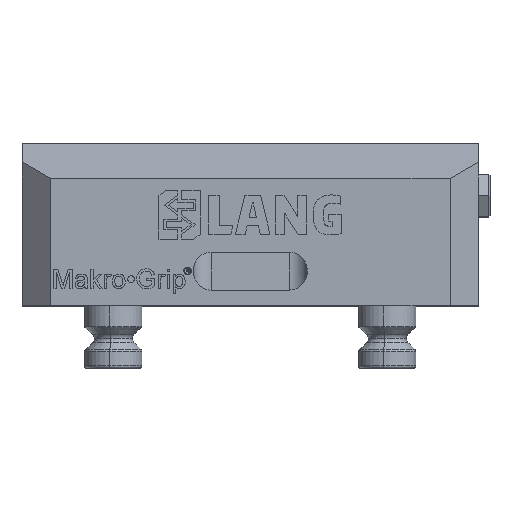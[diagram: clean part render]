
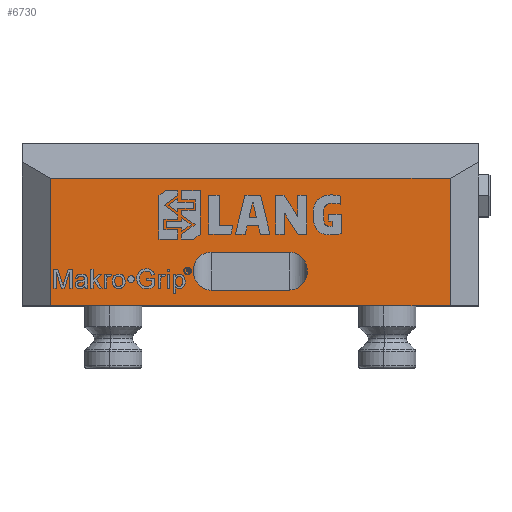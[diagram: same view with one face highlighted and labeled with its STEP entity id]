
A CAD part, top view. The second image highlights one B-rep face of the part: STEP entity #6730.
In plain terms, the highlighted planar face has unit normal (0, 0, 1).
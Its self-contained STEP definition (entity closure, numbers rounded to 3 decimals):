
#515 = CARTESIAN_POINT ( 'NONE',  ( 80., 44.587, 62.5 ) ) ;
#1158 = VECTOR ( 'NONE', #5932, 1000. ) ;
#1750 = CARTESIAN_POINT ( 'NONE',  ( 70., 57., 62.5 ) ) ;
#1830 = EDGE_LOOP ( 'NONE', ( #9539, #28933, #4221, #41804 ) ) ;
#2243 = CARTESIAN_POINT ( 'NONE',  ( -26.25, 18.743, 62.5 ) ) ;
#3030 = CARTESIAN_POINT ( 'NONE',  ( -13.75, 5.441, 62.5 ) ) ;
#4142 = ORIENTED_EDGE ( 'NONE', *, *, #6112, .T. ) ;
#4221 = ORIENTED_EDGE ( 'NONE', *, *, #26999, .T. ) ;
#5561 = DIRECTION ( 'NONE',  ( 0., -1., 0. ) ) ;
#5932 = DIRECTION ( 'NONE',  ( 1., 0., 0. ) ) ;
#6112 = EDGE_CURVE ( 'NONE', #12596, #37936, #12516, .T. ) ;
#6707 = VERTEX_POINT ( 'NONE', #3030 ) ;
#6730 = ADVANCED_FACE ( 'NONE', ( #11009, #6807 ), #24328, .F. ) ;
#6807 = FACE_OUTER_BOUND ( 'NONE', #1830, .T. ) ;
#6921 = ORIENTED_EDGE ( 'NONE', *, *, #12520, .F. ) ;
#7123 = LINE ( 'NONE', #515, #43682 ) ;
#8177 = EDGE_LOOP ( 'NONE', ( #6921, #4142, #12315, #34502 ) ) ;
#9539 = ORIENTED_EDGE ( 'NONE', *, *, #18550, .T. ) ;
#10629 = CARTESIAN_POINT ( 'NONE',  ( 80., 0., 62.5 ) ) ;
#11009 = FACE_BOUND ( 'NONE', #8177, .T. ) ;
#11668 = CARTESIAN_POINT ( 'NONE',  ( 70., 0., 62.5 ) ) ;
#12315 = ORIENTED_EDGE ( 'NONE', *, *, #33166, .F. ) ;
#12516 = LINE ( 'NONE', #16482, #1158 ) ;
#12520 = EDGE_CURVE ( 'NONE', #12596, #6707, #23766, .T. ) ;
#12596 = VERTEX_POINT ( 'NONE', #18114 ) ;
#13206 = AXIS2_PLACEMENT_3D ( 'NONE', #38745, #14055, #21273 ) ;
#14055 = DIRECTION ( 'NONE',  ( 0., 0., -1. ) ) ;
#14139 = CARTESIAN_POINT ( 'NONE',  ( 13.75, 5.441, 62.5 ) ) ;
#14345 = LINE ( 'NONE', #10629, #32834 ) ;
#15180 = EDGE_CURVE ( 'NONE', #32067, #20582, #14345, .T. ) ;
#15787 = VERTEX_POINT ( 'NONE', #20443 ) ;
#15964 = CARTESIAN_POINT ( 'NONE',  ( 13.75, 18.743, 62.5 ) ) ;
#16062 = DIRECTION ( 'NONE',  ( 0., 1., 0. ) ) ;
#16482 = CARTESIAN_POINT ( 'NONE',  ( 80., 18.743, 62.5 ) ) ;
#16546 = CARTESIAN_POINT ( 'NONE',  ( -13.75, 5.441, 62.5 ) ) ;
#18114 = CARTESIAN_POINT ( 'NONE',  ( -13.75, 18.743, 62.5 ) ) ;
#18550 = EDGE_CURVE ( 'NONE', #32067, #15787, #40505, .T. ) ;
#20241 = CARTESIAN_POINT ( 'NONE',  ( -13.75, 18.743, 62.5 ) ) ;
#20443 = CARTESIAN_POINT ( 'NONE',  ( 70., 44.587, 62.5 ) ) ;
#20525 = DIRECTION ( 'NONE',  ( -1., 0., 0. ) ) ;
#20582 = VERTEX_POINT ( 'NONE', #46386 ) ;
#21027 = CARTESIAN_POINT ( 'NONE',  ( 13.75, 5.441, 62.5 ) ) ;
#21273 = DIRECTION ( 'NONE',  ( -1., 0., 0. ) ) ;
#21428 =( BOUNDED_CURVE ( )  B_SPLINE_CURVE ( 3, ( #14139, #28402, #25477, #24183 ),
 .UNSPECIFIED., .F., .F. ) 
 B_SPLINE_CURVE_WITH_KNOTS ( ( 4, 4 ),
 ( 0., 3.142 ),
 .UNSPECIFIED. ) 
 CURVE ( )  GEOMETRIC_REPRESENTATION_ITEM ( )  RATIONAL_B_SPLINE_CURVE ( ( 1., 0.333, 0.333, 1. ) ) 
 REPRESENTATION_ITEM ( '' )  );
#21583 = VECTOR ( 'NONE', #5561, 1000. ) ;
#23766 =( BOUNDED_CURVE ( )  B_SPLINE_CURVE ( 3, ( #20241, #2243, #33709, #16546 ),
 .UNSPECIFIED., .F., .F. ) 
 B_SPLINE_CURVE_WITH_KNOTS ( ( 4, 4 ),
 ( 3.142, 6.283 ),
 .UNSPECIFIED. ) 
 CURVE ( )  GEOMETRIC_REPRESENTATION_ITEM ( )  RATIONAL_B_SPLINE_CURVE ( ( 1., 0.333, 0.333, 1. ) ) 
 REPRESENTATION_ITEM ( '' )  );
#24183 = CARTESIAN_POINT ( 'NONE',  ( 13.75, 18.743, 62.5 ) ) ;
#24328 = PLANE ( 'NONE',  #13206 ) ;
#25007 = VERTEX_POINT ( 'NONE', #21027 ) ;
#25477 = CARTESIAN_POINT ( 'NONE',  ( 26.25, 18.743, 62.5 ) ) ;
#26999 = EDGE_CURVE ( 'NONE', #43642, #20582, #30189, .T. ) ;
#27560 = LINE ( 'NONE', #41982, #33542 ) ;
#28402 = CARTESIAN_POINT ( 'NONE',  ( 26.25, 5.441, 62.5 ) ) ;
#28933 = ORIENTED_EDGE ( 'NONE', *, *, #32143, .T. ) ;
#29726 = CARTESIAN_POINT ( 'NONE',  ( -70., 0., 62.5 ) ) ;
#30189 = LINE ( 'NONE', #29726, #21583 ) ;
#30234 = VECTOR ( 'NONE', #16062, 1000. ) ;
#31510 = DIRECTION ( 'NONE',  ( -1., 0., 0. ) ) ;
#32067 = VERTEX_POINT ( 'NONE', #11668 ) ;
#32143 = EDGE_CURVE ( 'NONE', #15787, #43642, #7123, .T. ) ;
#32834 = VECTOR ( 'NONE', #31510, 1000. ) ;
#33166 = EDGE_CURVE ( 'NONE', #25007, #37936, #21428, .T. ) ;
#33542 = VECTOR ( 'NONE', #20525, 1000. ) ;
#33709 = CARTESIAN_POINT ( 'NONE',  ( -26.25, 5.441, 62.5 ) ) ;
#34502 = ORIENTED_EDGE ( 'NONE', *, *, #41746, .T. ) ;
#35040 = CARTESIAN_POINT ( 'NONE',  ( -70., 44.587, 62.5 ) ) ;
#37936 = VERTEX_POINT ( 'NONE', #15964 ) ;
#38745 = CARTESIAN_POINT ( 'NONE',  ( 80., 0., 62.5 ) ) ;
#39962 = DIRECTION ( 'NONE',  ( -1., 0., 0. ) ) ;
#40505 = LINE ( 'NONE', #1750, #30234 ) ;
#41746 = EDGE_CURVE ( 'NONE', #25007, #6707, #27560, .T. ) ;
#41804 = ORIENTED_EDGE ( 'NONE', *, *, #15180, .F. ) ;
#41982 = CARTESIAN_POINT ( 'NONE',  ( 20., 5.441, 62.5 ) ) ;
#43642 = VERTEX_POINT ( 'NONE', #35040 ) ;
#43682 = VECTOR ( 'NONE', #39962, 1000. ) ;
#46386 = CARTESIAN_POINT ( 'NONE',  ( -70., 0., 62.5 ) ) ;
